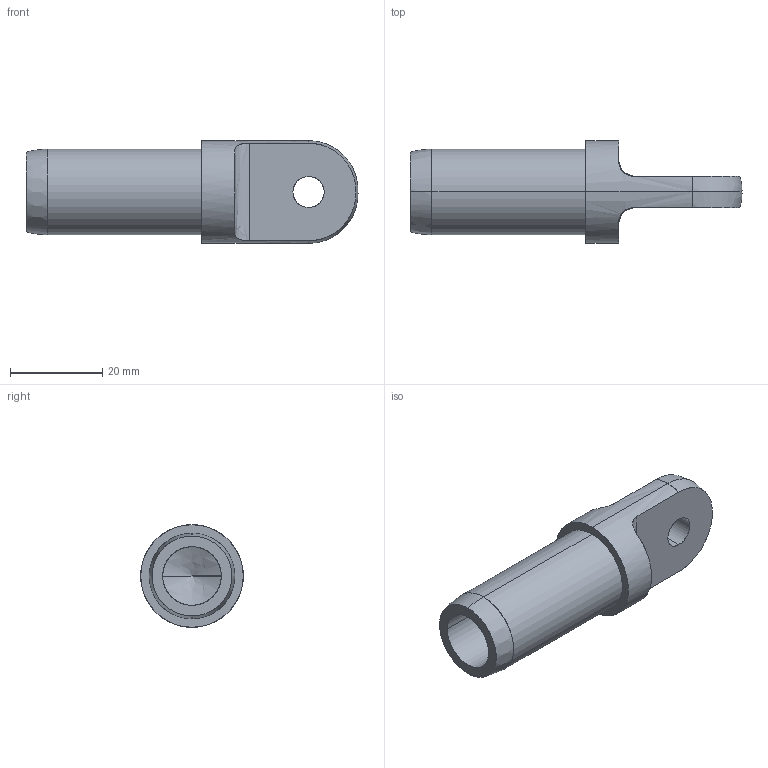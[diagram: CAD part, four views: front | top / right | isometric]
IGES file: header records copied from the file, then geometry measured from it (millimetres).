
Start section: SolidWorks IGES file using analytic representation for surfaces
Global section: file name: \\SERVER3\Design\_New Design Drive Folder List\_Design Vault\AAI\Modular Round Tube Connectors\Solidworks Models\STP Files\12202013\0.750 Inch Modular Connectors\DRP-002-0524-00.IGS; native system: SolidWorks 2013; preprocessor: SolidWorks 2013; author: tbraun; date: 131220.123213; units: inch
Bounding box: 71.98 x 22.23 x 22.23 mm (x, y, z)
Surface area: 6402.1 mm2 (no closed solid volume)
Topology: 0 solids, 0 shells, 22 faces, 418 edges, 414 vertices
Faces by surface type: revolution 12, bspline 10
